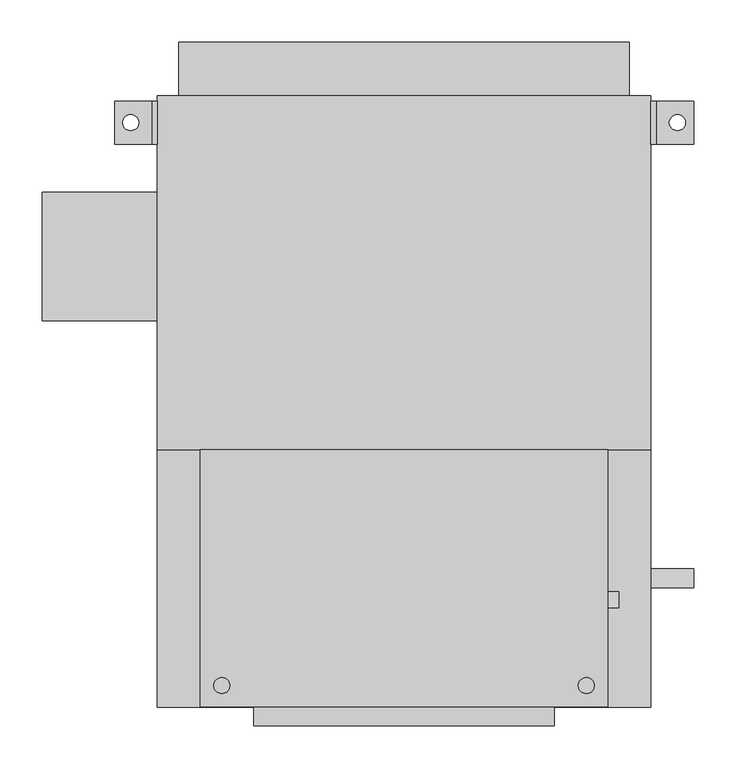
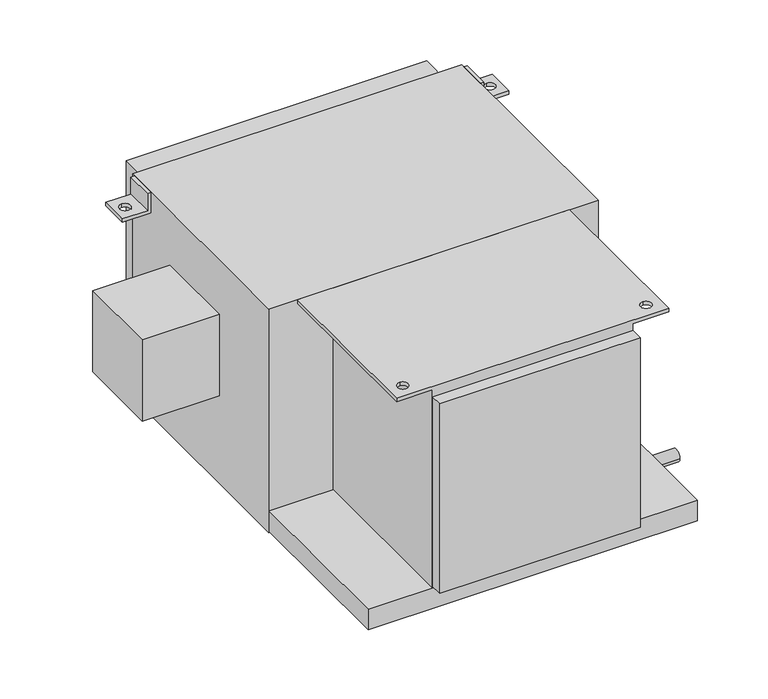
"""IFC4 building model written with IfcOpenShell, lengths in millimetres: proxy geometry, Concealed_High_Capacity_Horizontal_Fan_Coil_Unit_With_Plenum_-_42DCA_-_CARRIER_-_2-Pipe_Cool-EHeat_RH_2022 : Size 06 - 277v/60Hz/1Ph - 6 Row 4.0kW."""

from ifc_helpers import new_model, si_unit, point, frame, frame_2d, origin, place, context, project, spatial, polyline, circle_curve, trimmed, segment, composite_curve, outline, extrude, source, transform, mapped, element, save
from ifc_brep_helpers import plane_surface, revolved_surface, advanced_brep


def mechanical_equipment_bec94e6a(model_context):
    return source(origin(), model_context, "Body", "SolidModel", [
        advanced_brep(
        [(-139.7, 327.025, -38.1), (-190.5, 327.025, -38.1), (-190.5, 327.025, -31.75), (-146.05, 327.025, -31.75), (-146.05, 327.025, 0.0), (-139.7, 327.025, 0.0), (-139.7, 276.225, -38.1), (-139.7, 276.225, 0.0), (-146.05, 276.225, 0.0), (-146.05, 276.225, -31.75), (-190.5, 276.225, -31.75), (-190.5, 276.225, -38.1), (-171.45, 292.1, -38.1), (-171.45, 311.15, -38.1), (-171.45, 311.15, -31.75), (-171.45, 292.1, -31.75)],
        [
            (0, 1),
            (1, 2),
            (2, 3),
            (3, 4),
            (4, 5),
            (5, 0),
            (6, 7),
            (7, 8),
            (8, 9),
            (9, 10),
            (10, 11),
            (11, 6),
            (0, 6),
            (11, 1),
            (12, 13, circle_curve(frame((-171.45, 301.625, -38.1), z_axis=(0.0, 0.0, 1.0), x_axis=(0.0, -1.0, 0.0)), 9.525)),
            (13, 12, circle_curve(frame((-171.45, 301.625, -38.1), z_axis=(0.0, 0.0, 1.0), x_axis=(0.0, -1.0, 0.0)), 9.525)),
            (10, 2),
            (9, 3),
            (14, 15, circle_curve(frame((-171.45, 301.625, -31.75), z_axis=(0.0, 0.0, -1.0), x_axis=(0.0, -1.0, 0.0)), 9.525)),
            (15, 14, circle_curve(frame((-171.45, 301.625, -31.75), z_axis=(0.0, 0.0, -1.0), x_axis=(0.0, -1.0, 0.0)), 9.525)),
            (8, 4),
            (7, 5),
            (14, 13),
            (12, 15),
        ],
        [
            plane_surface(frame((-139.7, 327.025, -38.1), z_axis=(0.0, 1.0, 0.0), x_axis=(-1.0, 0.0, 0.0))),
            plane_surface(frame((-139.7, 276.225, -38.1), z_axis=(0.0, -1.0, 0.0), x_axis=(1.0, 0.0, 0.0))),
            plane_surface(frame((-139.7, 327.025, -38.1), z_axis=(0.0, 0.0, -1.0), x_axis=(0.0, -1.0, 0.0))),
            plane_surface(frame((-190.5, 327.025, -38.1), z_axis=(-1.0, 0.0, 0.0), x_axis=(0.0, -1.0, 0.0))),
            plane_surface(frame((-190.5, 327.025, -31.75), z_axis=(0.0, 0.0, 1.0), x_axis=(0.0, -1.0, 0.0))),
            plane_surface(frame((-146.05, 327.025, -31.75), z_axis=(-1.0, 0.0, 0.0), x_axis=(0.0, -1.0, 0.0))),
            plane_surface(frame((-146.05, 327.025, 0.0), z_axis=(0.0, 0.0, 1.0), x_axis=(0.0, -1.0, 0.0))),
            plane_surface(frame((-139.7, 327.025, 0.0), z_axis=(1.0, 0.0, 0.0), x_axis=(0.0, -1.0, 0.0))),
            revolved_surface(polyline([(-171.45, 292.1, -38.1), (-171.45, 292.1, -31.75)]), (-171.45, 301.625, -31.75), (0.0, 0.0, -1.0)),
        ],
        [
            (0, [[1, 2, 3, 4, 5, 6]]),
            (1, [[7, 8, 9, 10, 11, 12]]),
            (2, [[-1, 13, -12, 14], [15, 16]]),
            (3, [[-2, -14, -11, 17]]),
            (4, [[-3, -17, -10, 18], [19, 20]]),
            (5, [[-4, -18, -9, 21]]),
            (6, [[-5, -21, -8, 22]]),
            (7, [[-6, -22, -7, -13]]),
            (8, [[23, -15, 24, -19]]),
            (8, [[-23, -20, -24, -16]]),
        ],
    ),
        advanced_brep(
        [(444.5, 327.025, -38.1), (444.5, 327.025, 0.0), (450.85, 327.025, 0.0), (450.85, 327.025, -31.75), (495.3, 327.025, -31.75), (495.3, 327.025, -38.1), (444.5, 276.225, -38.1), (495.3, 276.225, -38.1), (495.3, 276.225, -31.75), (450.85, 276.225, -31.75), (450.85, 276.225, 0.0), (444.5, 276.225, 0.0), (476.25, 311.15, -31.75), (476.25, 292.1, -31.75), (476.25, 292.1, -38.1), (476.25, 311.15, -38.1)],
        [
            (0, 1),
            (1, 2),
            (2, 3),
            (3, 4),
            (4, 5),
            (5, 0),
            (6, 7),
            (7, 8),
            (8, 9),
            (9, 10),
            (10, 11),
            (11, 6),
            (0, 6),
            (11, 1),
            (10, 2),
            (9, 3),
            (8, 4),
            (12, 13, circle_curve(frame((476.25, 301.625, -31.75), z_axis=(0.0, 0.0, -1.0), x_axis=(0.0, -1.0, 0.0)), 9.525)),
            (13, 12, circle_curve(frame((476.25, 301.625, -31.75), z_axis=(0.0, 0.0, -1.0), x_axis=(0.0, -1.0, 0.0)), 9.525)),
            (7, 5),
            (14, 15, circle_curve(frame((476.25, 301.625, -38.1), z_axis=(0.0, 0.0, 1.0), x_axis=(0.0, -1.0, 0.0)), 9.525)),
            (15, 14, circle_curve(frame((476.25, 301.625, -38.1), z_axis=(0.0, 0.0, 1.0), x_axis=(0.0, -1.0, 0.0)), 9.525)),
            (12, 15),
            (14, 13),
        ],
        [
            plane_surface(frame((-139.7, 327.025, -38.1), z_axis=(0.0, 1.0, 0.0), x_axis=(-1.0, 0.0, 0.0))),
            plane_surface(frame((-139.7, 276.225, -38.1), z_axis=(0.0, -1.0, 0.0), x_axis=(1.0, 0.0, 0.0))),
            plane_surface(frame((444.5, 327.025, -38.1), z_axis=(-1.0, 0.0, 0.0), x_axis=(0.0, -1.0, 0.0))),
            plane_surface(frame((444.5, 327.025, 0.0), z_axis=(0.0, 0.0, 1.0), x_axis=(0.0, -1.0, 0.0))),
            plane_surface(frame((450.85, 327.025, 0.0), z_axis=(1.0, 0.0, 0.0), x_axis=(0.0, -1.0, 0.0))),
            plane_surface(frame((450.85, 327.025, -31.75), z_axis=(0.0, 0.0, 1.0), x_axis=(0.0, -1.0, 0.0))),
            plane_surface(frame((495.3, 327.025, -31.75), z_axis=(1.0, 0.0, 0.0), x_axis=(0.0, -1.0, 0.0))),
            plane_surface(frame((495.3, 327.025, -38.1), z_axis=(0.0, 0.0, -1.0), x_axis=(0.0, -1.0, 0.0))),
            revolved_surface(polyline([(476.25, 292.1, -38.1), (476.25, 292.1, -31.75)]), (476.25, 301.625, -31.75), (0.0, 0.0, -1.0)),
        ],
        [
            (0, [[1, 2, 3, 4, 5, 6]]),
            (1, [[7, 8, 9, 10, 11, 12]]),
            (2, [[-1, 13, -12, 14]]),
            (3, [[-2, -14, -11, 15]]),
            (4, [[-3, -15, -10, 16]]),
            (5, [[-4, -16, -9, 17], [18, 19]]),
            (6, [[-5, -17, -8, 20]]),
            (7, [[-6, -20, -7, -13], [21, 22]]),
            (8, [[23, -21, 24, -18]]),
            (8, [[-23, -19, -24, -22]]),
        ],
    ),
        advanced_brep(
        [(330.2, -85.725, -377.825), (330.2, -390.525, -377.825), (-25.4, -390.525, -377.825), (-25.4, -85.725, -377.825), (-25.4, -390.525, -6.35), (-25.4, -85.725, -6.35), (330.2, -85.725, -6.35), (330.2, -390.525, -6.35), (-88.9, -85.725, -6.35), (-88.9, -390.525, -6.35), (-63.5, -355.6, -6.35), (-63.5, -374.65, -6.35), (393.7, -85.725, -6.35), (393.7, -390.525, -6.35), (368.3, -355.6, -6.35), (368.3, -374.65, -6.35), (-88.9, -85.725, 0.0), (-88.9, -390.525, 0.0), (393.7, -390.525, 0.0), (393.7, -85.725, 0.0), (-63.5, -374.65, 0.0), (-63.5, -355.6, 0.0), (368.3, -374.65, 0.0), (368.3, -355.6, 0.0)],
        [
            (0, 1),
            (1, 2),
            (2, 3),
            (3, 0),
            (2, 4),
            (4, 5),
            (5, 3),
            (0, 6),
            (6, 7),
            (7, 1),
            (8, 5),
            (4, 9),
            (9, 8),
            (10, 11, circle_curve(frame((-63.5, -365.125, -6.35), z_axis=(0.0, 0.0, 1.0), x_axis=(0.0, 1.0, 0.0)), 9.525)),
            (11, 10, circle_curve(frame((-63.5, -365.125, -6.35), z_axis=(0.0, 0.0, 1.0), x_axis=(0.0, 1.0, 0.0)), 9.525)),
            (12, 13),
            (13, 7),
            (6, 12),
            (14, 15, circle_curve(frame((368.3, -365.125, -6.35), z_axis=(0.0, 0.0, 1.0), x_axis=(0.0, 1.0, 0.0)), 9.525)),
            (15, 14, circle_curve(frame((368.3, -365.125, -6.35), z_axis=(0.0, 0.0, 1.0), x_axis=(0.0, 1.0, 0.0)), 9.525)),
            (16, 17),
            (17, 18),
            (18, 19),
            (19, 16),
            (20, 21, circle_curve(frame((-63.5, -365.125, 0.0), z_axis=(0.0, 0.0, -1.0), x_axis=(0.0, 1.0, 0.0)), 9.525)),
            (21, 20, circle_curve(frame((-63.5, -365.125, 0.0), z_axis=(0.0, 0.0, -1.0), x_axis=(0.0, 1.0, 0.0)), 9.525)),
            (22, 23, circle_curve(frame((368.3, -365.125, 0.0), z_axis=(0.0, 0.0, -1.0), x_axis=(0.0, 1.0, 0.0)), 9.525)),
            (23, 22, circle_curve(frame((368.3, -365.125, 0.0), z_axis=(0.0, 0.0, -1.0), x_axis=(0.0, 1.0, 0.0)), 9.525)),
            (9, 17),
            (16, 8),
            (13, 18),
            (19, 12),
            (20, 11),
            (10, 21),
            (22, 15),
            (14, 23),
        ],
        [
            plane_surface(frame((-25.4, -85.725, -377.825), z_axis=(0.0, 0.0, -1.0), x_axis=(1.0, 0.0, 0.0))),
            plane_surface(frame((-25.4, -85.725, 0.0), z_axis=(-1.0, 0.0, 0.0), x_axis=(0.0, 0.0, -1.0))),
            plane_surface(frame((330.2, -390.525, 0.0), z_axis=(1.0, 0.0, 0.0), x_axis=(0.0, 0.0, -1.0))),
            plane_surface(frame((-88.9, -85.725, -6.35), z_axis=(0.0, 0.0, -1.0), x_axis=(0.0, 1.0, 0.0))),
            plane_surface(frame((-88.9, -85.725, 0.0), z_axis=(0.0, 0.0, 1.0), x_axis=(0.0, -1.0, 0.0))),
            plane_surface(frame((-88.9, -85.725, 0.0), z_axis=(-1.0, 0.0, 0.0), x_axis=(0.0, 0.0, -1.0))),
            plane_surface(frame((-88.9, -390.525, 0.0), z_axis=(0.0, -1.0, 0.0), x_axis=(0.0, 0.0, -1.0))),
            plane_surface(frame((-25.4, -85.725, 0.0), z_axis=(0.0, 1.0, 0.0), x_axis=(0.0, 0.0, -1.0))),
            plane_surface(frame((393.7, -390.525, 0.0), z_axis=(1.0, 0.0, 0.0), x_axis=(0.0, 0.0, -1.0))),
            revolved_surface(polyline([(-63.5, -355.6, -6.35), (-63.5, -355.6, 0.0)]), (-63.5, -365.125, 0.0), (0.0, 0.0, -1.0)),
            revolved_surface(polyline([(368.3, -355.6, -6.35), (368.3, -355.6, 0.0)]), (368.3, -365.125, 0.0), (0.0, 0.0, -1.0)),
        ],
        [
            (0, [[1, 2, 3, 4]]),
            (1, [[-3, 5, 6, 7]]),
            (2, [[-1, 8, 9, 10]]),
            (3, [[11, -6, 12, 13], [14, 15]]),
            (3, [[16, 17, -9, 18], [19, 20]]),
            (4, [[21, 22, 23, 24], [25, 26], [27, 28]]),
            (5, [[-13, 29, -21, 30]]),
            (6, [[-12, -5, -2, -10, -17, 31, -22, -29]]),
            (7, [[-11, -30, -24, 32, -18, -8, -4, -7]]),
            (8, [[-16, -32, -23, -31]]),
            (9, [[33, -14, 34, -25]]),
            (9, [[-33, -26, -34, -15]]),
            (10, [[35, -19, 36, -27]]),
            (10, [[-35, -28, -36, -20]]),
        ],
    ),
        extrude(outline(polyline([(-114.3, 396.875), (419.1, 396.875), (419.1, 333.375), (-114.3, 333.375), (-114.3, 396.875)])), frame((0.0, 0.0, -381.0), z_axis=(0.0, 0.0, 1.0), x_axis=(1.0, 0.0, 0.0)), (0.0, 0.0, 1.0), 358.775),
        extrude(outline(composite_curve([segment(trimmed(circle_curve(frame_2d((-263.525, -76.2)), 9.525), [point((-254.0, -76.2))], [point((-273.05, -76.2))], False, "CARTESIAN"), True, "CONTINUOUS"), segment(trimmed(circle_curve(frame_2d((-263.525, -76.2)), 9.525), [point((-273.05, -76.2))], [point((-254.0, -76.2))], False, "CARTESIAN"), True, "CONTINUOUS")], self_intersect=False)), frame((330.2, 0.0, 0.0), z_axis=(1.0, 0.0, 0.0), x_axis=(0.0, 1.0, 0.0)), (0.0, 0.0, 1.0), 76.2),
        extrude(outline(composite_curve([segment(trimmed(circle_curve(frame_2d((-263.525, -301.625)), 9.525), [point((-254.0, -301.625))], [point((-273.05, -301.625))], False, "CARTESIAN"), True, "CONTINUOUS"), segment(trimmed(circle_curve(frame_2d((-263.525, -301.625)), 9.525), [point((-273.05, -301.625))], [point((-254.0, -301.625))], False, "CARTESIAN"), True, "CONTINUOUS")], self_intersect=False)), frame((330.2, 0.0, 0.0), z_axis=(1.0, 0.0, 0.0), x_axis=(0.0, 1.0, 0.0)), (0.0, 0.0, 1.0), 76.2),
        extrude(outline(composite_curve([segment(trimmed(circle_curve(frame_2d((-238.125, -403.225)), 11.1125), [point((-227.0125, -403.225))], [point((-249.2375, -403.225))], False, "CARTESIAN"), True, "CONTINUOUS"), segment(trimmed(circle_curve(frame_2d((-238.125, -403.225)), 11.1125), [point((-249.2375, -403.225))], [point((-227.0125, -403.225))], False, "CARTESIAN"), True, "CONTINUOUS")], self_intersect=False)), frame((444.5, 0.0, 0.0), z_axis=(1.0, 0.0, 0.0), x_axis=(0.0, 1.0, 0.0)), (0.0, 0.0, 1.0), 50.8),
        extrude(outline(polyline([(-276.225, 66.675), (-276.225, 219.075), (-139.7, 219.075), (-139.7, 66.675), (-276.225, 66.675)])), frame((0.0, 0.0, -254.0), z_axis=(0.0, 0.0, 1.0), x_axis=(1.0, 0.0, 0.0)), (0.0, 0.0, 1.0), 152.4),
        extrude(outline(polyline([(330.2, -412.75), (-25.4, -412.75), (-25.4, -390.525), (330.2, -390.525), (330.2, -412.75)])), frame((0.0, 0.0, -374.65), z_axis=(0.0, 0.0, 1.0), x_axis=(1.0, 0.0, 0.0)), (0.0, 0.0, 1.0), 355.6),
        extrude(outline(polyline([(444.5, -85.725), (-139.7, -85.725), (-139.7, 333.375), (444.5, 333.375), (444.5, -85.725)])), frame((0.0, 0.0, -419.1), z_axis=(0.0, 0.0, 1.0), x_axis=(1.0, 0.0, 0.0)), (0.0, 0.0, 1.0), 419.1),
        extrude(outline(polyline([(444.5, -85.725), (444.5, -390.525), (-139.7, -390.525), (-139.7, -85.725), (444.5, -85.725)])), frame((0.0, 0.0, -415.925), z_axis=(0.0, 0.0, 1.0), x_axis=(1.0, 0.0, 0.0)), (0.0, 0.0, 1.0), 38.1),
    ])


if __name__ == "__main__":
    model = new_model("IFC4")
    model_context = context("Model", 3, world=origin())
    ifc_project = project(units=[si_unit("LENGTHUNIT", "METRE", prefix="MILLI")], contexts=[model_context])
    site = spatial("IfcSite", under=ifc_project)
    building = spatial("IfcBuilding", under=site)
    placement = place(None, origin())
    mechanical_equipment_shape = mechanical_equipment_bec94e6a(model_context)
    element("IfcBuildingElementProxy", 1, Name="Concealed_High_Capacity_Horizontal_Fan_Coil_Unit_With_Plenum_-_42DCA_-_CARRIER_-_2-Pipe_Cool-EHeat_RH_2022 : Size 06 - 277v/60Hz/1Ph - 6 Row 4.0kW", ObjectType="Concealed_High_Capacity_Horizontal_Fan_Coil_Unit_With_Plenum_-_42DCA_-_CARRIER_-_2-Pipe_Cool-EHeat_RH_2022 : Size 06 - 277v/60Hz/1Ph - 6 Row 4.0kW", at=placement, inside=building, context=model_context, shape_type="MappedRepresentation", body=[
        mapped(mechanical_equipment_shape, transform((0.0, 0.0, 0.0), x_axis=(1.0, 0.0, 0.0), y_axis=(0.0, 1.0, 0.0), z_axis=(0.0, 0.0, 1.0))),
    ])
    save(model, "model.ifc")
